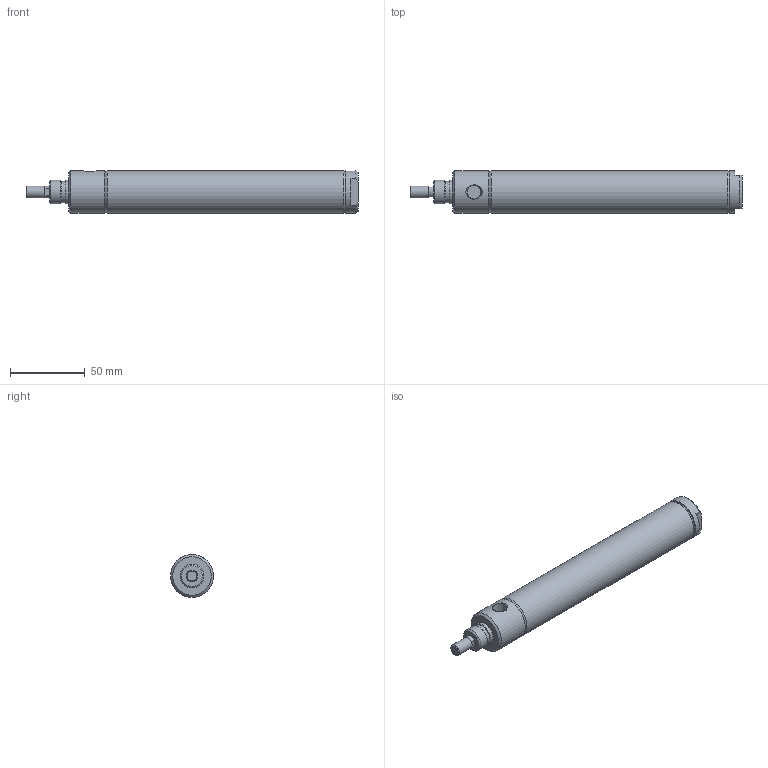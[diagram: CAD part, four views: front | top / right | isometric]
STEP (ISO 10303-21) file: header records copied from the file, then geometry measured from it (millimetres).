
FILE_DESCRIPTION( ( 'STEP AP214' ), '1' );
FILE_NAME( 'p:/temp/worker_409/temp/exporttempdir_5796_185_BbdfS/format_0/1062D01-05A.stp', '2020-05-07T14:48:54', ( 'License CC BY-ND 4.0' ), ( 'CADENAS' ), ' ', 'PARTsolutions', ' ' );
FILE_SCHEMA( ( 'AUTOMOTIVE_DESIGN { 1 0 10303 214 1 1 1 1 }' ) );
Length unit declared in the file: inch
Products named in the file (3): 1062D01-05A; _1062D01-05A-001062D01-05A-0000A00A0b; _1062D01-05A-001062D01-05A-0000A00A0r
Assembly tree (2 placements, depth 2):
  1062D01-05A
    _1062D01-05A-001062D01-05A-0000A00A0b
    _1062D01-05A-001062D01-05A-0000A00A0r
Bounding box: 222.25 x 28.57 x 28.57 mm (x, y, z)
Volume: 57874.7 mm3; surface area: 43484.2 mm2
Topology: 2 solids, 2 shells, 51 faces, 99 edges, 62 vertices
Faces by surface type: plane 26, cone 13, cylinder 12
Full cylindrical faces by diameter (mm): 7.938 x1, 7.95 x3, 14.196 x1, 15.85 x1, 15.875 x1, 26.987 x2, 28.397 x1, 28.575 x2
Entity records: 1700 total; most frequent: CARTESIAN_POINT 278, DIRECTION 220, ORIENTED_EDGE 148, AXIS2_PLACEMENT_3D 100, EDGE_LOOP 82, EDGE_CURVE 74, FACE_OUTER_BOUND 63, VERTEX_POINT 58
